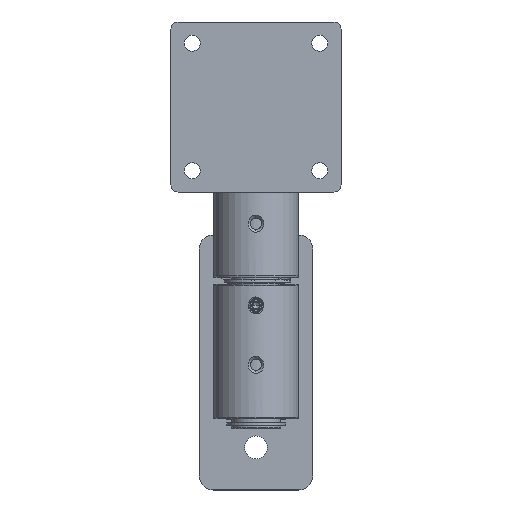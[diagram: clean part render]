
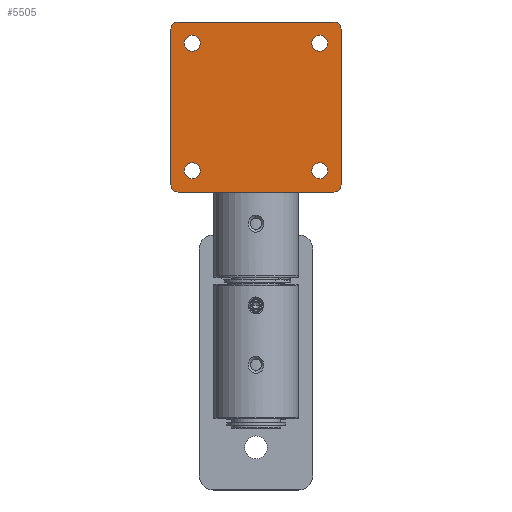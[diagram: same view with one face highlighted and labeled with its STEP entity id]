
A CAD part, top view. The second image highlights one B-rep face of the part: STEP entity #5505.
In plain terms, the highlighted planar face has unit normal (0, 0, 1) as drawn and (0, 0, -1) by its records, which use the part's own axes.
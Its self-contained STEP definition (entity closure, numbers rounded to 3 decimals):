
#45 = CARTESIAN_POINT ( 'NONE',  ( 32.147, 28.575, -6.35 ) ) ;
#58 = CIRCLE ( 'NONE', #3272, 3.175 ) ;
#91 = FACE_BOUND ( 'NONE', #8067, .T. ) ;
#154 = CARTESIAN_POINT ( 'NONE',  ( -34.925, 38.1, -6.35 ) ) ;
#249 = VERTEX_POINT ( 'NONE', #11422 ) ;
#322 = ORIENTED_EDGE ( 'NONE', *, *, #8827, .T. ) ;
#323 = CIRCLE ( 'NONE', #4324, 3.572 ) ;
#326 = ORIENTED_EDGE ( 'NONE', *, *, #8981, .F. ) ;
#359 = CIRCLE ( 'NONE', #8200, 3.572 ) ;
#362 = DIRECTION ( 'NONE',  ( -1., 0., 0. ) ) ;
#477 = DIRECTION ( 'NONE',  ( 1., 0., 0. ) ) ;
#554 = CIRCLE ( 'NONE', #2768, 3.175 ) ;
#567 = VERTEX_POINT ( 'NONE', #3446 ) ;
#711 = DIRECTION ( 'NONE',  ( 0., 0., 1. ) ) ;
#806 = VERTEX_POINT ( 'NONE', #11157 ) ;
#911 = VECTOR ( 'NONE', #10891, 1000. ) ;
#952 = CIRCLE ( 'NONE', #3384, 3.572 ) ;
#987 = CARTESIAN_POINT ( 'NONE',  ( 28.575, 28.575, -6.35 ) ) ;
#1022 = AXIS2_PLACEMENT_3D ( 'NONE', #8395, #9330, #2603 ) ;
#1092 = DIRECTION ( 'NONE',  ( 0., 1., 0. ) ) ;
#1198 = DIRECTION ( 'NONE',  ( -1., 0., 0. ) ) ;
#1210 = FACE_BOUND ( 'NONE', #3023, .T. ) ;
#1222 = EDGE_CURVE ( 'NONE', #5349, #567, #5235, .T. ) ;
#1241 = DIRECTION ( 'NONE',  ( 0., 0., -1. ) ) ;
#1283 = EDGE_CURVE ( 'NONE', #3182, #8897, #2625, .T. ) ;
#1340 = CARTESIAN_POINT ( 'NONE',  ( -38.1, 38.1, -6.35 ) ) ;
#1362 = DIRECTION ( 'NONE',  ( 1., 0., 0. ) ) ;
#1372 = CARTESIAN_POINT ( 'NONE',  ( 38.1, 34.925, -6.35 ) ) ;
#1382 = VERTEX_POINT ( 'NONE', #2726 ) ;
#1445 = ORIENTED_EDGE ( 'NONE', *, *, #1283, .T. ) ;
#1463 = CIRCLE ( 'NONE', #4877, 3.572 ) ;
#1628 = DIRECTION ( 'NONE',  ( -1., 0., 0. ) ) ;
#1640 = ORIENTED_EDGE ( 'NONE', *, *, #7427, .T. ) ;
#1650 = CARTESIAN_POINT ( 'NONE',  ( -38.1, -34.925, -6.35 ) ) ;
#1720 = ORIENTED_EDGE ( 'NONE', *, *, #5138, .F. ) ;
#1822 = EDGE_CURVE ( 'NONE', #249, #8790, #2632, .T. ) ;
#2010 = DIRECTION ( 'NONE',  ( 0., 0., 1. ) ) ;
#2097 = DIRECTION ( 'NONE',  ( 1., 0., 0. ) ) ;
#2111 = DIRECTION ( 'NONE',  ( 0., 0., 1. ) ) ;
#2474 = VECTOR ( 'NONE', #1092, 1000. ) ;
#2603 = DIRECTION ( 'NONE',  ( 1., 0., 0. ) ) ;
#2625 = CIRCLE ( 'NONE', #1022, 3.572 ) ;
#2632 = CIRCLE ( 'NONE', #5430, 3.175 ) ;
#2726 = CARTESIAN_POINT ( 'NONE',  ( 25.003, 28.575, -6.35 ) ) ;
#2768 = AXIS2_PLACEMENT_3D ( 'NONE', #9846, #1241, #362 ) ;
#2844 = ORIENTED_EDGE ( 'NONE', *, *, #1222, .F. ) ;
#2896 = DIRECTION ( 'NONE',  ( 0., 0., -1. ) ) ;
#3012 = ORIENTED_EDGE ( 'NONE', *, *, #7421, .T. ) ;
#3023 = EDGE_LOOP ( 'NONE', ( #1445, #5659 ) ) ;
#3035 = FACE_OUTER_BOUND ( 'NONE', #11357, .T. ) ;
#3100 = PLANE ( 'NONE',  #10299 ) ;
#3182 = VERTEX_POINT ( 'NONE', #4784 ) ;
#3197 = DIRECTION ( 'NONE',  ( 0., 0., 1. ) ) ;
#3272 = AXIS2_PLACEMENT_3D ( 'NONE', #12125, #7540, #1628 ) ;
#3384 = AXIS2_PLACEMENT_3D ( 'NONE', #11913, #9287, #1362 ) ;
#3446 = CARTESIAN_POINT ( 'NONE',  ( 34.925, -38.1, -6.35 ) ) ;
#3467 = ORIENTED_EDGE ( 'NONE', *, *, #4138, .T. ) ;
#3499 = EDGE_CURVE ( 'NONE', #5349, #4245, #58, .T. ) ;
#3518 = VECTOR ( 'NONE', #10073, 1000. ) ;
#3651 = VECTOR ( 'NONE', #477, 1000. ) ;
#3921 = ORIENTED_EDGE ( 'NONE', *, *, #9656, .T. ) ;
#4102 = DIRECTION ( 'NONE',  ( -1., 0., 0. ) ) ;
#4138 = EDGE_CURVE ( 'NONE', #5120, #1382, #1463, .T. ) ;
#4148 = DIRECTION ( 'NONE',  ( 1., 0., 0. ) ) ;
#4245 = VERTEX_POINT ( 'NONE', #1650 ) ;
#4296 = LINE ( 'NONE', #1340, #911 ) ;
#4324 = AXIS2_PLACEMENT_3D ( 'NONE', #6955, #2111, #6771 ) ;
#4348 = CARTESIAN_POINT ( 'NONE',  ( -38.1, -38.1, -6.35 ) ) ;
#4373 = EDGE_CURVE ( 'NONE', #8633, #11120, #6881, .T. ) ;
#4377 = CIRCLE ( 'NONE', #9781, 3.572 ) ;
#4716 = EDGE_CURVE ( 'NONE', #7314, #10361, #359, .T. ) ;
#4742 = EDGE_CURVE ( 'NONE', #10314, #12272, #952, .T. ) ;
#4781 = CARTESIAN_POINT ( 'NONE',  ( -34.925, 34.925, -6.35 ) ) ;
#4784 = CARTESIAN_POINT ( 'NONE',  ( -25.003, -28.575, -6.35 ) ) ;
#4877 = AXIS2_PLACEMENT_3D ( 'NONE', #987, #711, #7308 ) ;
#5120 = VERTEX_POINT ( 'NONE', #45 ) ;
#5138 = EDGE_CURVE ( 'NONE', #806, #8790, #4296, .T. ) ;
#5190 = DIRECTION ( 'NONE',  ( 1., 0., 0. ) ) ;
#5235 = LINE ( 'NONE', #9092, #3651 ) ;
#5320 = AXIS2_PLACEMENT_3D ( 'NONE', #6471, #5514, #9365 ) ;
#5349 = VERTEX_POINT ( 'NONE', #11202 ) ;
#5430 = AXIS2_PLACEMENT_3D ( 'NONE', #4781, #2896, #1198 ) ;
#5466 = CARTESIAN_POINT ( 'NONE',  ( -32.147, -28.575, -6.35 ) ) ;
#5502 = AXIS2_PLACEMENT_3D ( 'NONE', #8895, #9822, #2097 ) ;
#5505 = ADVANCED_FACE ( 'NONE', ( #8890, #9757, #91, #1210, #3035 ), #3100, .T. ) ;
#5514 = DIRECTION ( 'NONE',  ( 0., 0., -1. ) ) ;
#5533 = CIRCLE ( 'NONE', #6143, 3.572 ) ;
#5536 = ORIENTED_EDGE ( 'NONE', *, *, #4373, .F. ) ;
#5659 = ORIENTED_EDGE ( 'NONE', *, *, #10948, .T. ) ;
#5931 = ORIENTED_EDGE ( 'NONE', *, *, #10274, .T. ) ;
#6143 = AXIS2_PLACEMENT_3D ( 'NONE', #8930, #2010, #4148 ) ;
#6453 = ORIENTED_EDGE ( 'NONE', *, *, #1822, .T. ) ;
#6467 = CARTESIAN_POINT ( 'NONE',  ( 38.1, -34.925, -6.35 ) ) ;
#6471 = CARTESIAN_POINT ( 'NONE',  ( 34.925, 34.925, -6.35 ) ) ;
#6771 = DIRECTION ( 'NONE',  ( 1., 0., 0. ) ) ;
#6881 = LINE ( 'NONE', #7893, #2474 ) ;
#6955 = CARTESIAN_POINT ( 'NONE',  ( 28.575, -28.575, -6.35 ) ) ;
#7026 = DIRECTION ( 'NONE',  ( 1., 0., 0. ) ) ;
#7262 = CARTESIAN_POINT ( 'NONE',  ( -32.147, 28.575, -6.35 ) ) ;
#7308 = DIRECTION ( 'NONE',  ( 1., 0., 0. ) ) ;
#7314 = VERTEX_POINT ( 'NONE', #9725 ) ;
#7421 = EDGE_CURVE ( 'NONE', #8633, #567, #554, .T. ) ;
#7427 = EDGE_CURVE ( 'NONE', #1382, #5120, #4377, .T. ) ;
#7540 = DIRECTION ( 'NONE',  ( 0., 0., -1. ) ) ;
#7764 = EDGE_LOOP ( 'NONE', ( #10761, #322 ) ) ;
#7893 = CARTESIAN_POINT ( 'NONE',  ( 38.1, 38.1, -6.35 ) ) ;
#8067 = EDGE_LOOP ( 'NONE', ( #12118, #5931 ) ) ;
#8200 = AXIS2_PLACEMENT_3D ( 'NONE', #10216, #9976, #5190 ) ;
#8395 = CARTESIAN_POINT ( 'NONE',  ( -28.575, -28.575, -6.35 ) ) ;
#8566 = CIRCLE ( 'NONE', #5320, 3.175 ) ;
#8633 = VERTEX_POINT ( 'NONE', #6467 ) ;
#8790 = VERTEX_POINT ( 'NONE', #154 ) ;
#8827 = EDGE_CURVE ( 'NONE', #10361, #7314, #10922, .T. ) ;
#8890 = FACE_BOUND ( 'NONE', #7764, .T. ) ;
#8895 = CARTESIAN_POINT ( 'NONE',  ( -28.575, 28.575, -6.35 ) ) ;
#8897 = VERTEX_POINT ( 'NONE', #5466 ) ;
#8924 = CARTESIAN_POINT ( 'NONE',  ( 28.575, 28.575, -6.35 ) ) ;
#8930 = CARTESIAN_POINT ( 'NONE',  ( -28.575, -28.575, -6.35 ) ) ;
#8981 = EDGE_CURVE ( 'NONE', #249, #4245, #11947, .T. ) ;
#9092 = CARTESIAN_POINT ( 'NONE',  ( 38.1, -38.1, -6.35 ) ) ;
#9287 = DIRECTION ( 'NONE',  ( 0., 0., 1. ) ) ;
#9330 = DIRECTION ( 'NONE',  ( 0., 0., 1. ) ) ;
#9365 = DIRECTION ( 'NONE',  ( -1., 0., 0. ) ) ;
#9656 = EDGE_CURVE ( 'NONE', #806, #11120, #8566, .T. ) ;
#9725 = CARTESIAN_POINT ( 'NONE',  ( -25.003, 28.575, -6.35 ) ) ;
#9757 = FACE_BOUND ( 'NONE', #10954, .T. ) ;
#9781 = AXIS2_PLACEMENT_3D ( 'NONE', #8924, #3197, #7026 ) ;
#9822 = DIRECTION ( 'NONE',  ( 0., 0., 1. ) ) ;
#9836 = CARTESIAN_POINT ( 'NONE',  ( 32.147, -28.575, -6.35 ) ) ;
#9846 = CARTESIAN_POINT ( 'NONE',  ( 34.925, -34.925, -6.35 ) ) ;
#9976 = DIRECTION ( 'NONE',  ( 0., 0., 1. ) ) ;
#10073 = DIRECTION ( 'NONE',  ( 0., -1., 0. ) ) ;
#10216 = CARTESIAN_POINT ( 'NONE',  ( -28.575, 28.575, -6.35 ) ) ;
#10274 = EDGE_CURVE ( 'NONE', #12272, #10314, #323, .T. ) ;
#10299 = AXIS2_PLACEMENT_3D ( 'NONE', #11511, #11574, #4102 ) ;
#10314 = VERTEX_POINT ( 'NONE', #9836 ) ;
#10361 = VERTEX_POINT ( 'NONE', #7262 ) ;
#10761 = ORIENTED_EDGE ( 'NONE', *, *, #4716, .T. ) ;
#10830 = CARTESIAN_POINT ( 'NONE',  ( 25.003, -28.575, -6.35 ) ) ;
#10891 = DIRECTION ( 'NONE',  ( -1., 0., 0. ) ) ;
#10922 = CIRCLE ( 'NONE', #5502, 3.572 ) ;
#10948 = EDGE_CURVE ( 'NONE', #8897, #3182, #5533, .T. ) ;
#10954 = EDGE_LOOP ( 'NONE', ( #3467, #1640 ) ) ;
#11120 = VERTEX_POINT ( 'NONE', #1372 ) ;
#11157 = CARTESIAN_POINT ( 'NONE',  ( 34.925, 38.1, -6.35 ) ) ;
#11202 = CARTESIAN_POINT ( 'NONE',  ( -34.925, -38.1, -6.35 ) ) ;
#11357 = EDGE_LOOP ( 'NONE', ( #2844, #11366, #326, #6453, #1720, #3921, #5536, #3012 ) ) ;
#11366 = ORIENTED_EDGE ( 'NONE', *, *, #3499, .T. ) ;
#11422 = CARTESIAN_POINT ( 'NONE',  ( -38.1, 34.925, -6.35 ) ) ;
#11511 = CARTESIAN_POINT ( 'NONE',  ( 0., 0., -6.35 ) ) ;
#11574 = DIRECTION ( 'NONE',  ( 0., 0., -1. ) ) ;
#11913 = CARTESIAN_POINT ( 'NONE',  ( 28.575, -28.575, -6.35 ) ) ;
#11947 = LINE ( 'NONE', #4348, #3518 ) ;
#12118 = ORIENTED_EDGE ( 'NONE', *, *, #4742, .T. ) ;
#12125 = CARTESIAN_POINT ( 'NONE',  ( -34.925, -34.925, -6.35 ) ) ;
#12272 = VERTEX_POINT ( 'NONE', #10830 ) ;
